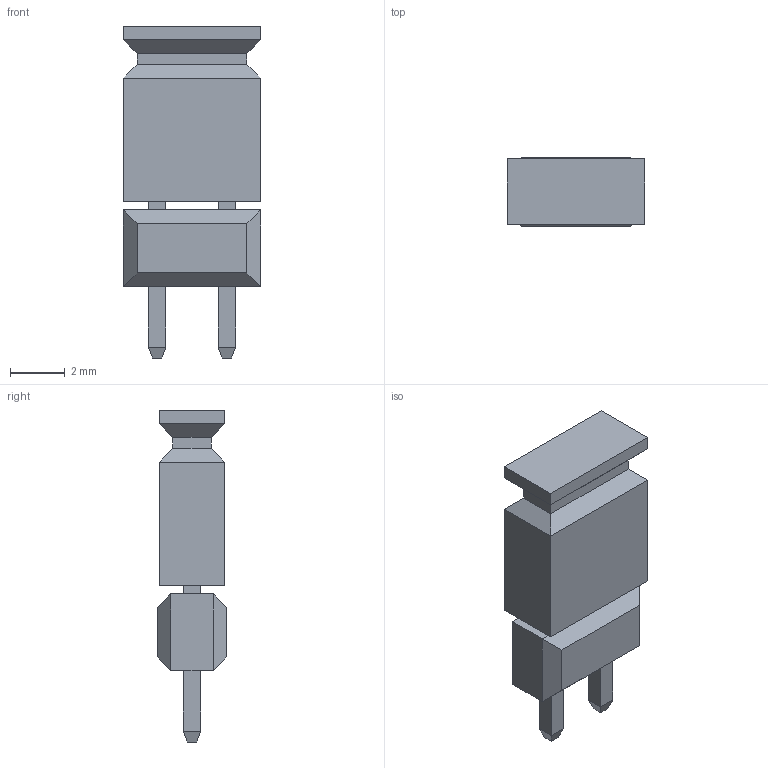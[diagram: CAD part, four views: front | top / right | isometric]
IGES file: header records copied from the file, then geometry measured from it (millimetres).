
Start section: SolidWorks IGES FILE using analytic representation for surfaces
Global section: file name: Y:\CONTENTCENTRAL\Jumper SL2\cache\JUDEFAU0606200334948.igs; native system: SolidWorks 2003 by SolidWorks Corporation; preprocessor: Version 5.3; author: partstream; date: 030606.035754; units: millimetre
Bounding box: 5 x 2.54 x 12.1 mm (x, y, z)
Surface area: 272.7 mm2 (no closed solid volume)
Topology: 0 solids, 0 shells, 82 faces, 352 edges, 352 vertices
Faces by surface type: bspline 82
